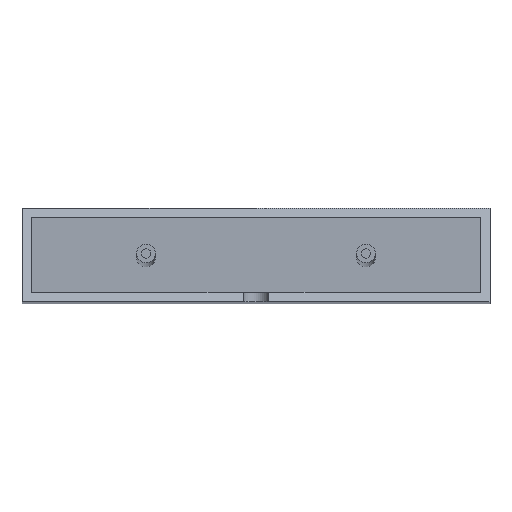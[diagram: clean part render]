
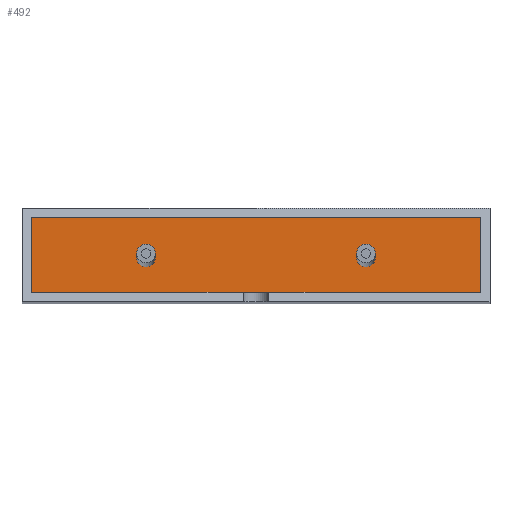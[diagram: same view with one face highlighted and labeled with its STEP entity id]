
A CAD part, top view. The second image highlights one B-rep face of the part: STEP entity #492.
In plain terms, the highlighted planar face has unit normal (0, 0, 1).
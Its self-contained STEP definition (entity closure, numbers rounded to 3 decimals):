
#16=LINE($,#723,#66);
#17=LINE($,#725,#67);
#18=LINE($,#727,#68);
#19=LINE($,#728,#69);
#66=VECTOR($,#596,96.);
#67=VECTOR($,#597,16.);
#68=VECTOR($,#598,96.);
#69=VECTOR($,#599,16.);
#117=PLANE($,#531);
#142=FACE_BOUND($,#185,.T.);
#143=FACE_BOUND($,#186,.T.);
#144=FACE_BOUND($,#187,.T.);
#185=EDGE_LOOP($,(#342));
#186=EDGE_LOOP($,(#343));
#187=EDGE_LOOP($,(#344,#345,#346,#347));
#209=CIRCLE($,#520,2.);
#213=CIRCLE($,#528,2.);
#221=VERTEX_POINT($,#696);
#225=VERTEX_POINT($,#708);
#230=VERTEX_POINT($,#721);
#231=VERTEX_POINT($,#722);
#232=VERTEX_POINT($,#724);
#233=VERTEX_POINT($,#726);
#265=EDGE_CURVE($,#221,#221,#209,.T.);
#269=EDGE_CURVE($,#225,#225,#213,.T.);
#274=EDGE_CURVE($,#230,#231,#16,.T.);
#275=EDGE_CURVE($,#232,#230,#17,.T.);
#276=EDGE_CURVE($,#233,#232,#18,.T.);
#277=EDGE_CURVE($,#231,#233,#19,.T.);
#342=ORIENTED_EDGE($,*,*,#265,.T.);
#343=ORIENTED_EDGE($,*,*,#269,.T.);
#344=ORIENTED_EDGE($,*,*,#274,.F.);
#345=ORIENTED_EDGE($,*,*,#275,.F.);
#346=ORIENTED_EDGE($,*,*,#276,.F.);
#347=ORIENTED_EDGE($,*,*,#277,.F.);
#492=ADVANCED_FACE($,(#142,#143,#144),#117,.T.);
#520=AXIS2_PLACEMENT_3D($,#697,#568,#569);
#528=AXIS2_PLACEMENT_3D($,#709,#584,#585);
#531=AXIS2_PLACEMENT_3D($,#720,#594,#595);
#568=DIRECTION('center_axis',(0.,0.,
-1.));
#569=DIRECTION('ref_axis',(-1.,0.,0.));
#584=DIRECTION('center_axis',(0.,0.,
-1.));
#585=DIRECTION('ref_axis',(-1.,0.,0.));
#594=DIRECTION('center_axis',(0.,0.,
1.));
#595=DIRECTION('ref_axis',(1.,0.,0.));
#596=DIRECTION($,(1.,0.,0.));
#597=DIRECTION($,(0.,1.,0.));
#598=DIRECTION($,(-1.,0.,0.));
#599=DIRECTION($,(0.,-1.,0.));
#696=CARTESIAN_POINT('',(-15.078,3.909,97.121));
#697=CARTESIAN_POINT('Origin',(-17.078,3.909,97.121));
#708=CARTESIAN_POINT('',(31.922,3.909,97.121));
#709=CARTESIAN_POINT('Origin',(29.922,3.909,97.121));
#720=CARTESIAN_POINT('Origin',(6.422,4.409,97.121));
#721=CARTESIAN_POINT('',(-41.578,12.409,97.121));
#722=CARTESIAN_POINT('',(54.422,12.409,97.121));
#723=CARTESIAN_POINT($,(31.422,12.409,97.121));
#724=CARTESIAN_POINT('',(-41.578,-3.591,97.121));
#725=CARTESIAN_POINT($,(-41.578,9.409,97.121));
#726=CARTESIAN_POINT('',(54.422,-3.591,97.121));
#727=CARTESIAN_POINT($,(-18.578,-3.591,97.121));
#728=CARTESIAN_POINT($,(54.422,-0.591,97.121));
